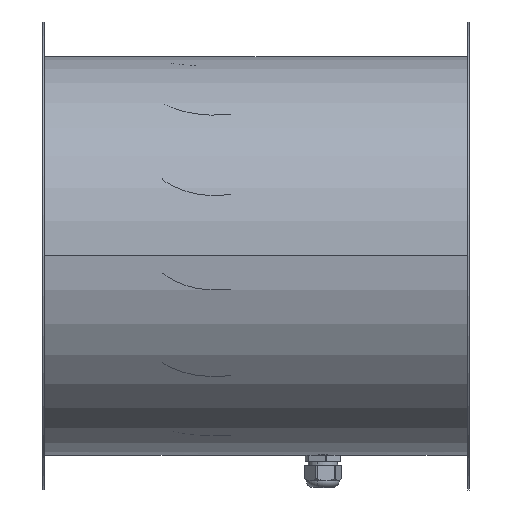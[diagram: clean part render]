
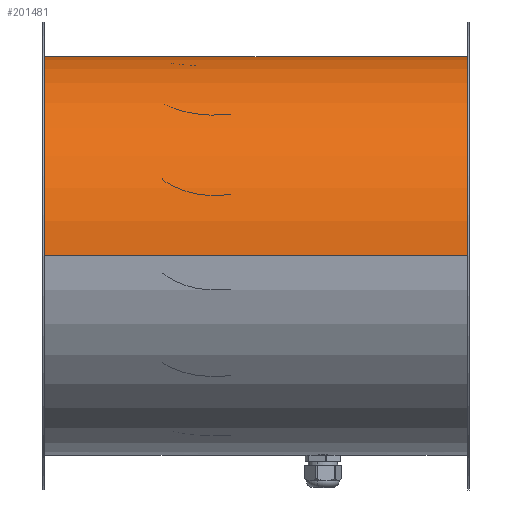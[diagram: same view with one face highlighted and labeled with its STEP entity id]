
A CAD part, top view. The second image highlights one B-rep face of the part: STEP entity #201481.
In plain terms, the highlighted cylindrical face has radius 178.75 mm (diameter 357.5 mm), a partial arc.
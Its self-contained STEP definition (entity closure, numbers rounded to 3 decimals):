
#298 = AXIS2_PLACEMENT_3D ( 'NONE', #138358, #24911, #157353 ) ;
#1225 = VERTEX_POINT ( 'NONE', #38445 ) ;
#10469 = AXIS2_PLACEMENT_3D ( 'NONE', #136815, #23405, #155825 ) ;
#10519 = EDGE_CURVE ( 'NONE', #121878, #102737, #70041, .T. ) ;
#12322 = DIRECTION ( 'NONE',  ( 0., 0., 1. ) ) ;
#15658 = CARTESIAN_POINT ( 'NONE',  ( 288.5, 0., 0. ) ) ;
#19012 = DIRECTION ( 'NONE',  ( 1., 0., 0. ) ) ;
#19822 = CARTESIAN_POINT ( 'NONE',  ( -89.5, 0., 178.75 ) ) ;
#23405 = DIRECTION ( 'NONE',  ( 1., 0., 0. ) ) ;
#24911 = DIRECTION ( 'NONE',  ( 1., 0., 0. ) ) ;
#33405 = ORIENTED_EDGE ( 'NONE', *, *, #230909, .F. ) ;
#34717 = DIRECTION ( 'NONE',  ( 0., 0., 1. ) ) ;
#37039 = CARTESIAN_POINT ( 'NONE',  ( 288.5, 0., 0. ) ) ;
#37360 = CIRCLE ( 'NONE', #57597, 178.75 ) ;
#38445 = CARTESIAN_POINT ( 'NONE',  ( 288.5, 0., -178.75 ) ) ;
#39657 = AXIS2_PLACEMENT_3D ( 'NONE', #65827, #198239, #84875 ) ;
#45941 = LINE ( 'NONE', #200806, #241404 ) ;
#47702 = CARTESIAN_POINT ( 'NONE',  ( -89.5, 0., 0. ) ) ;
#55356 = EDGE_LOOP ( 'NONE', ( #85059, #89034, #122621, #88690, #33405, #120774, #202194, #135563, #244779, #132327 ) ) ;
#56076 = DIRECTION ( 'NONE',  ( 0., 0., 1. ) ) ;
#56121 = EDGE_CURVE ( 'NONE', #227500, #218886, #194078, .T. ) ;
#57597 = AXIS2_PLACEMENT_3D ( 'NONE', #239070, #125706, #12322 ) ;
#65827 = CARTESIAN_POINT ( 'NONE',  ( 289.125, 0., 0. ) ) ;
#66721 = DIRECTION ( 'NONE',  ( 0., 0., 1. ) ) ;
#70041 = CIRCLE ( 'NONE', #298, 178.75 ) ;
#73208 = LINE ( 'NONE', #186852, #218293 ) ;
#75607 = AXIS2_PLACEMENT_3D ( 'NONE', #47702, #180111, #66721 ) ;
#82133 = CARTESIAN_POINT ( 'NONE',  ( 289.125, 0., -178.75 ) ) ;
#84875 = DIRECTION ( 'NONE',  ( 0., 0., 1. ) ) ;
#85059 = ORIENTED_EDGE ( 'NONE', *, *, #171094, .F. ) ;
#88690 = ORIENTED_EDGE ( 'NONE', *, *, #131980, .F. ) ;
#89034 = ORIENTED_EDGE ( 'NONE', *, *, #240274, .T. ) ;
#90867 = CIRCLE ( 'NONE', #75607, 178.75 ) ;
#92522 = DIRECTION ( 'NONE',  ( 1., 0., 0. ) ) ;
#102737 = VERTEX_POINT ( 'NONE', #111013 ) ;
#102854 = VECTOR ( 'NONE', #124074, 1000. ) ;
#108135 = VERTEX_POINT ( 'NONE', #202609 ) ;
#111013 = CARTESIAN_POINT ( 'NONE',  ( -89.5, 3.021, -178.724 ) ) ;
#113396 = CIRCLE ( 'NONE', #168047, 178.75 ) ;
#120774 = ORIENTED_EDGE ( 'NONE', *, *, #241826, .T. ) ;
#121070 = AXIS2_PLACEMENT_3D ( 'NONE', #37039, #169445, #56076 ) ;
#121878 = VERTEX_POINT ( 'NONE', #200264 ) ;
#122621 = ORIENTED_EDGE ( 'NONE', *, *, #56121, .T. ) ;
#122944 = EDGE_CURVE ( 'NONE', #108135, #149786, #113396, .T. ) ;
#124074 = DIRECTION ( 'NONE',  ( 1., 0., 0. ) ) ;
#125706 = DIRECTION ( 'NONE',  ( 1., 0., 0. ) ) ;
#129485 = VERTEX_POINT ( 'NONE', #234761 ) ;
#131980 = EDGE_CURVE ( 'NONE', #215745, #218886, #142630, .T. ) ;
#132327 = ORIENTED_EDGE ( 'NONE', *, *, #160510, .F. ) ;
#135563 = ORIENTED_EDGE ( 'NONE', *, *, #232689, .F. ) ;
#136815 = CARTESIAN_POINT ( 'NONE',  ( -89.5, 0., 0. ) ) ;
#138358 = CARTESIAN_POINT ( 'NONE',  ( -89.5, 0., 0. ) ) ;
#142630 = CIRCLE ( 'NONE', #39657, 178.75 ) ;
#148111 = DIRECTION ( 'NONE',  ( 1., 0., 0. ) ) ;
#149749 = VECTOR ( 'NONE', #19012, 1000. ) ;
#149786 = VERTEX_POINT ( 'NONE', #186921 ) ;
#153219 = LINE ( 'NONE', #199333, #102854 ) ;
#155825 = DIRECTION ( 'NONE',  ( 0., 0., 1. ) ) ;
#157353 = DIRECTION ( 'NONE',  ( 0., 0., 1. ) ) ;
#158642 = CIRCLE ( 'NONE', #121070, 178.75 ) ;
#160510 = EDGE_CURVE ( 'NONE', #231119, #121878, #90867, .T. ) ;
#166009 = FACE_OUTER_BOUND ( 'NONE', #55356, .T. ) ;
#168047 = AXIS2_PLACEMENT_3D ( 'NONE', #15658, #148111, #34717 ) ;
#169445 = DIRECTION ( 'NONE',  ( 1., 0., 0. ) ) ;
#171094 = EDGE_CURVE ( 'NONE', #129485, #231119, #45941, .T. ) ;
#180111 = DIRECTION ( 'NONE',  ( 1., 0., 0. ) ) ;
#180322 = CARTESIAN_POINT ( 'NONE',  ( -89.5, 0., -178.75 ) ) ;
#186852 = CARTESIAN_POINT ( 'NONE',  ( -89.5, 3.021, -178.724 ) ) ;
#186921 = CARTESIAN_POINT ( 'NONE',  ( 288.5, 3.021, -178.724 ) ) ;
#194078 = LINE ( 'NONE', #19822, #149749 ) ;
#198239 = DIRECTION ( 'NONE',  ( 1., 0., 0. ) ) ;
#199333 = CARTESIAN_POINT ( 'NONE',  ( -89.5, 0., -178.75 ) ) ;
#200264 = CARTESIAN_POINT ( 'NONE',  ( -89.5, 3., -178.725 ) ) ;
#200806 = CARTESIAN_POINT ( 'NONE',  ( -89.5, 0., -178.75 ) ) ;
#201481 = ADVANCED_FACE ( 'NONE', ( #166009 ), #204460, .T. ) ;
#201622 = DIRECTION ( 'NONE',  ( 1., 0., 0. ) ) ;
#202194 = ORIENTED_EDGE ( 'NONE', *, *, #122944, .T. ) ;
#202609 = CARTESIAN_POINT ( 'NONE',  ( 288.5, 3., -178.725 ) ) ;
#204460 = CYLINDRICAL_SURFACE ( 'NONE', #10469, 178.75 ) ;
#205537 = CARTESIAN_POINT ( 'NONE',  ( 289.125, 0., 178.75 ) ) ;
#206994 = CARTESIAN_POINT ( 'NONE',  ( -90.125, 0., 178.75 ) ) ;
#215745 = VERTEX_POINT ( 'NONE', #82133 ) ;
#218293 = VECTOR ( 'NONE', #92522, 1000. ) ;
#218886 = VERTEX_POINT ( 'NONE', #205537 ) ;
#227500 = VERTEX_POINT ( 'NONE', #206994 ) ;
#230909 = EDGE_CURVE ( 'NONE', #1225, #215745, #153219, .T. ) ;
#231119 = VERTEX_POINT ( 'NONE', #180322 ) ;
#232689 = EDGE_CURVE ( 'NONE', #102737, #149786, #73208, .T. ) ;
#234761 = CARTESIAN_POINT ( 'NONE',  ( -90.125, 0., -178.75 ) ) ;
#239070 = CARTESIAN_POINT ( 'NONE',  ( -90.125, 0., 0. ) ) ;
#240274 = EDGE_CURVE ( 'NONE', #129485, #227500, #37360, .T. ) ;
#241404 = VECTOR ( 'NONE', #201622, 1000. ) ;
#241826 = EDGE_CURVE ( 'NONE', #1225, #108135, #158642, .T. ) ;
#244779 = ORIENTED_EDGE ( 'NONE', *, *, #10519, .F. ) ;
